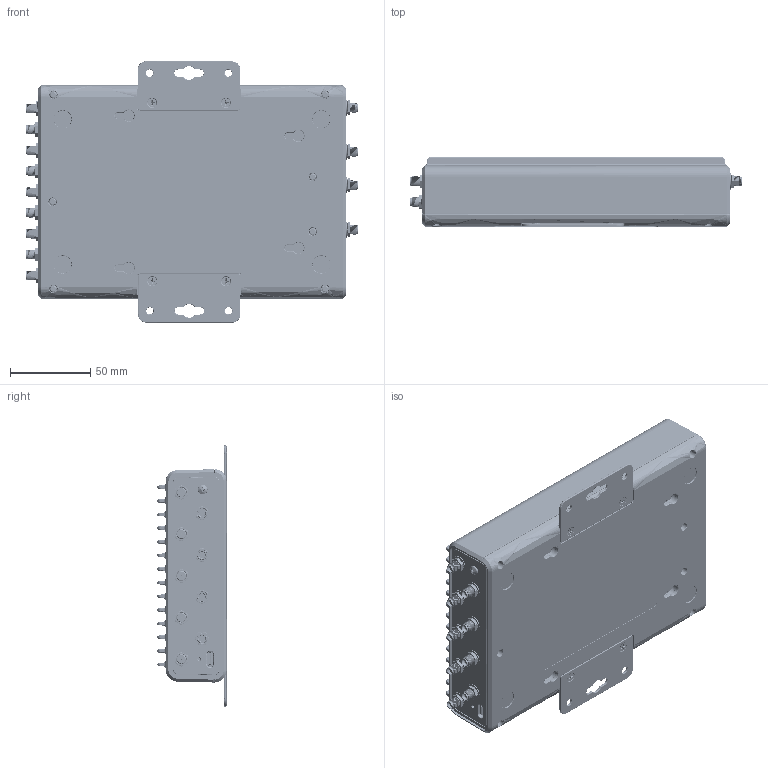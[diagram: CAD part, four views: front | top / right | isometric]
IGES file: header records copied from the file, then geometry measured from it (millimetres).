
Global section: file name: 50002224-PRT REV 01; native system: unknown; preprocessor: unknown; author: unknown; organization: unknown; date: 20260216.134930; units: inch
Bounding box: 206.97 x 43.04 x 162.85 mm (x, y, z)
Volume: 337741.4 mm3; surface area: 305453 mm2
Topology: 204 solids, 243 shells, 26688 faces, 74353 edges, 48111 vertices
Faces by surface type: bspline 26650, revolution 38
